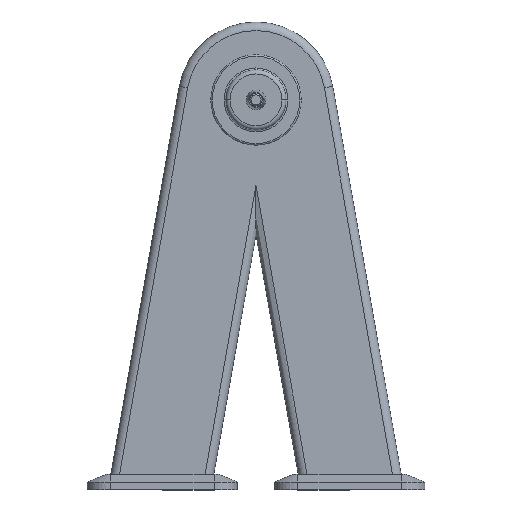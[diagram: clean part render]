
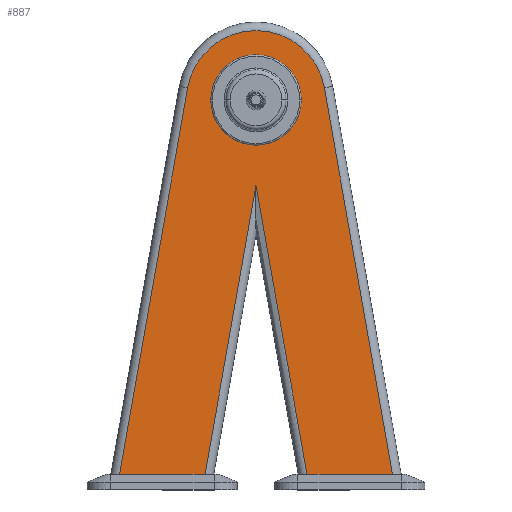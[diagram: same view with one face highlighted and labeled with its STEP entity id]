
A CAD part, top view. The second image highlights one B-rep face of the part: STEP entity #887.
In plain terms, the highlighted planar face has unit normal (0, 0, 1).
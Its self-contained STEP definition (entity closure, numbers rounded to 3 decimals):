
#20 = CARTESIAN_POINT ( 'NONE',  ( 175.01, 20., 63. ) ) ;
#93 = DIRECTION ( 'NONE',  ( 1., 0., 0. ) ) ;
#97 = DIRECTION ( 'NONE',  ( 0., 0., 1. ) ) ;
#103 = CARTESIAN_POINT ( 'NONE',  ( 0., 500., 63. ) ) ;
#163 = FACE_BOUND ( 'NONE', #642, .T. ) ;
#176 = CARTESIAN_POINT ( 'NONE',  ( -65.344, 20., 63. ) ) ;
#242 = DIRECTION ( 'NONE',  ( -1., 0., 0. ) ) ;
#262 = CARTESIAN_POINT ( 'NONE',  ( 0., 20., 63. ) ) ;
#411 = CARTESIAN_POINT ( 'NONE',  ( 58., 500., 63. ) ) ;
#435 = DIRECTION ( 'NONE',  ( 0.174, 0.985, 0. ) ) ;
#483 = VERTEX_POINT ( 'NONE', #1108 ) ;
#523 = DIRECTION ( 'NONE',  ( 1., 0., 0. ) ) ;
#524 = VERTEX_POINT ( 'NONE', #873 ) ;
#526 = DIRECTION ( 'NONE',  ( 0., 0., 1. ) ) ;
#533 = CARTESIAN_POINT ( 'NONE',  ( 0., 500., 63. ) ) ;
#616 = CARTESIAN_POINT ( 'NONE',  ( -175.01, 20., 63. ) ) ;
#642 = EDGE_LOOP ( 'NONE', ( #2049, #2596 ) ) ;
#654 = DIRECTION ( 'NONE',  ( 0.174, -0.985, 0. ) ) ;
#789 = VECTOR ( 'NONE', #2007, 1000. ) ;
#833 = VECTOR ( 'NONE', #654, 1000. ) ;
#873 = CARTESIAN_POINT ( 'NONE',  ( 87.648, 515.455, 63. ) ) ;
#883 = VERTEX_POINT ( 'NONE', #1843 ) ;
#886 = CARTESIAN_POINT ( 'NONE',  ( 0., 20., 63. ) ) ;
#887 = ADVANCED_FACE ( 'NONE', ( #163, #1888 ), #1825, .T. ) ;
#931 = DIRECTION ( 'NONE',  ( -1., 0., 0. ) ) ;
#939 = EDGE_CURVE ( 'NONE', #1144, #1641, #2668, .T. ) ;
#989 = ORIENTED_EDGE ( 'NONE', *, *, #1927, .F. ) ;
#1022 = CARTESIAN_POINT ( 'NONE',  ( 87.648, 515.455, 63. ) ) ;
#1077 = EDGE_CURVE ( 'NONE', #524, #1144, #1155, .T. ) ;
#1104 = AXIS2_PLACEMENT_3D ( 'NONE', #1830, #1833, #1818 ) ;
#1108 = CARTESIAN_POINT ( 'NONE',  ( 0., 390.583, 63. ) ) ;
#1122 = ORIENTED_EDGE ( 'NONE', *, *, #1077, .T. ) ;
#1123 = LINE ( 'NONE', #886, #2723 ) ;
#1144 = VERTEX_POINT ( 'NONE', #1363 ) ;
#1155 = CIRCLE ( 'NONE', #2047, 89. ) ;
#1221 = VECTOR ( 'NONE', #435, 1000. ) ;
#1353 = CIRCLE ( 'NONE', #2284, 58. ) ;
#1363 = CARTESIAN_POINT ( 'NONE',  ( -87.648, 515.455, 63. ) ) ;
#1366 = EDGE_CURVE ( 'NONE', #2239, #524, #2375, .T. ) ;
#1382 = CIRCLE ( 'NONE', #1661, 58. ) ;
#1392 = DIRECTION ( 'NONE',  ( 1., 0., 0. ) ) ;
#1393 = DIRECTION ( 'NONE',  ( 0., 0., 1. ) ) ;
#1395 = CARTESIAN_POINT ( 'NONE',  ( 0., 500., 63. ) ) ;
#1503 = EDGE_CURVE ( 'NONE', #2239, #2461, #1123, .T. ) ;
#1601 = DIRECTION ( 'NONE',  ( -0.174, -0.985, 0. ) ) ;
#1605 = CARTESIAN_POINT ( 'NONE',  ( -179.931, -7.91, 63. ) ) ;
#1617 = ORIENTED_EDGE ( 'NONE', *, *, #1503, .F. ) ;
#1641 = VERTEX_POINT ( 'NONE', #616 ) ;
#1651 = EDGE_CURVE ( 'NONE', #483, #2461, #2050, .T. ) ;
#1661 = AXIS2_PLACEMENT_3D ( 'NONE', #103, #97, #93 ) ;
#1686 = EDGE_CURVE ( 'NONE', #1821, #883, #1353, .T. ) ;
#1786 = EDGE_CURVE ( 'NONE', #2201, #483, #2348, .T. ) ;
#1818 = DIRECTION ( 'NONE',  ( 1., 0., 0. ) ) ;
#1821 = VERTEX_POINT ( 'NONE', #411 ) ;
#1825 = PLANE ( 'NONE',  #1104 ) ;
#1830 = CARTESIAN_POINT ( 'NONE',  ( 0., 500., 63. ) ) ;
#1833 = DIRECTION ( 'NONE',  ( 0., 0., 1. ) ) ;
#1843 = CARTESIAN_POINT ( 'NONE',  ( -58., 500., 63. ) ) ;
#1888 = FACE_OUTER_BOUND ( 'NONE', #1977, .T. ) ;
#1927 = EDGE_CURVE ( 'NONE', #2201, #1641, #2632, .T. ) ;
#1977 = EDGE_LOOP ( 'NONE', ( #989, #2118, #2663, #1617, #2722, #1122, #2773 ) ) ;
#1992 = CARTESIAN_POINT ( 'NONE',  ( -10.833, 329.147, 63. ) ) ;
#2007 = DIRECTION ( 'NONE',  ( -0.174, 0.985, 0. ) ) ;
#2031 = CARTESIAN_POINT ( 'NONE',  ( 71.456, -14.664, 63. ) ) ;
#2047 = AXIS2_PLACEMENT_3D ( 'NONE', #1395, #1393, #1392 ) ;
#2049 = ORIENTED_EDGE ( 'NONE', *, *, #2075, .F. ) ;
#2050 = LINE ( 'NONE', #2031, #833 ) ;
#2075 = EDGE_CURVE ( 'NONE', #883, #1821, #1382, .T. ) ;
#2085 = VECTOR ( 'NONE', #242, 1000. ) ;
#2118 = ORIENTED_EDGE ( 'NONE', *, *, #1786, .T. ) ;
#2123 = VECTOR ( 'NONE', #1601, 1000. ) ;
#2201 = VERTEX_POINT ( 'NONE', #176 ) ;
#2239 = VERTEX_POINT ( 'NONE', #20 ) ;
#2284 = AXIS2_PLACEMENT_3D ( 'NONE', #533, #526, #523 ) ;
#2348 = LINE ( 'NONE', #1992, #1221 ) ;
#2375 = LINE ( 'NONE', #1022, #789 ) ;
#2461 = VERTEX_POINT ( 'NONE', #2732 ) ;
#2596 = ORIENTED_EDGE ( 'NONE', *, *, #1686, .F. ) ;
#2632 = LINE ( 'NONE', #262, #2085 ) ;
#2663 = ORIENTED_EDGE ( 'NONE', *, *, #1651, .T. ) ;
#2668 = LINE ( 'NONE', #1605, #2123 ) ;
#2722 = ORIENTED_EDGE ( 'NONE', *, *, #1366, .T. ) ;
#2723 = VECTOR ( 'NONE', #931, 1000. ) ;
#2732 = CARTESIAN_POINT ( 'NONE',  ( 65.344, 20., 63. ) ) ;
#2773 = ORIENTED_EDGE ( 'NONE', *, *, #939, .T. ) ;
